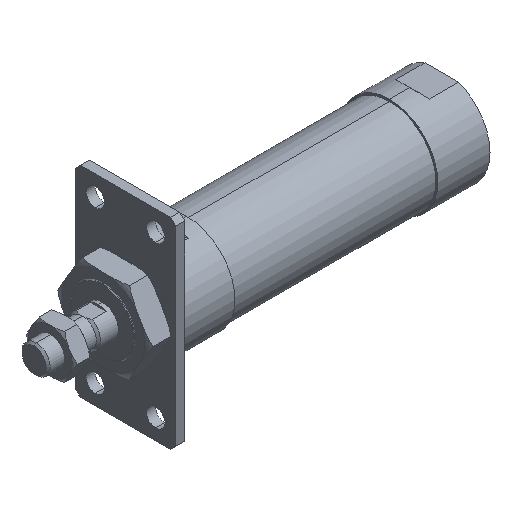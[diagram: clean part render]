
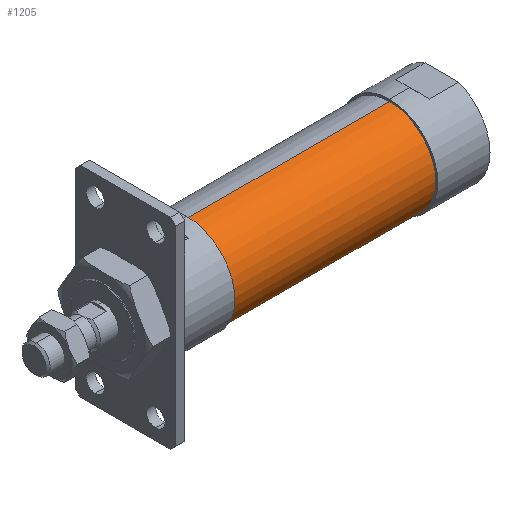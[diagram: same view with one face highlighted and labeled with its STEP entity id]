
A CAD part, isometric view. The second image highlights one B-rep face of the part: STEP entity #1205.
In plain terms, the highlighted cylindrical face has radius 23 mm (diameter 46 mm), a partial arc.
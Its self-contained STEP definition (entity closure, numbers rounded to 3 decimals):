
#27 = AXIS2_PLACEMENT_3D ( 'NONE', #2019, #56, #3280 ) ;
#56 = DIRECTION ( 'NONE',  ( -1., 0., 0. ) ) ;
#185 = EDGE_CURVE ( 'NONE', #3167, #1322, #2582, .T. ) ;
#284 = CARTESIAN_POINT ( 'NONE',  ( -1.784, 0., 0. ) ) ;
#344 = DIRECTION ( 'NONE',  ( -1., 0., 0. ) ) ;
#373 = CARTESIAN_POINT ( 'NONE',  ( 76., 0., 0. ) ) ;
#434 = CYLINDRICAL_SURFACE ( 'NONE', #2907, 23. ) ;
#694 = ORIENTED_EDGE ( 'NONE', *, *, #923, .F. ) ;
#712 = DIRECTION ( 'NONE',  ( 0., 0., 1. ) ) ;
#808 = DIRECTION ( 'NONE',  ( 0., 0., 1. ) ) ;
#923 = EDGE_CURVE ( 'NONE', #2195, #3769, #1025, .T. ) ;
#1019 = FACE_OUTER_BOUND ( 'NONE', #2580, .T. ) ;
#1025 = LINE ( 'NONE', #3606, #3209 ) ;
#1205 = ADVANCED_FACE ( 'NONE', ( #1019 ), #434, .T. ) ;
#1207 = CARTESIAN_POINT ( 'NONE',  ( 76., 0., 23. ) ) ;
#1322 = VERTEX_POINT ( 'NONE', #1207 ) ;
#1476 = ORIENTED_EDGE ( 'NONE', *, *, #3802, .F. ) ;
#1657 = ORIENTED_EDGE ( 'NONE', *, *, #2587, .T. ) ;
#1744 = CIRCLE ( 'NONE', #1994, 23. ) ;
#1749 = DIRECTION ( 'NONE',  ( -1., 0., 0. ) ) ;
#1994 = AXIS2_PLACEMENT_3D ( 'NONE', #373, #2589, #712 ) ;
#2019 = CARTESIAN_POINT ( 'NONE',  ( 177., 0., 0. ) ) ;
#2195 = VERTEX_POINT ( 'NONE', #2603 ) ;
#2261 = CARTESIAN_POINT ( 'NONE',  ( -1.784, 0., 23. ) ) ;
#2578 = VECTOR ( 'NONE', #344, 1000. ) ;
#2580 = EDGE_LOOP ( 'NONE', ( #694, #1657, #3856, #1476 ) ) ;
#2582 = LINE ( 'NONE', #2261, #2578 ) ;
#2587 = EDGE_CURVE ( 'NONE', #2195, #3167, #3059, .T. ) ;
#2589 = DIRECTION ( 'NONE',  ( -1., 0., 0. ) ) ;
#2603 = CARTESIAN_POINT ( 'NONE',  ( 177., 0., -23. ) ) ;
#2907 = AXIS2_PLACEMENT_3D ( 'NONE', #284, #2987, #808 ) ;
#2987 = DIRECTION ( 'NONE',  ( -1., 0., 0. ) ) ;
#3059 = CIRCLE ( 'NONE', #27, 23. ) ;
#3167 = VERTEX_POINT ( 'NONE', #3466 ) ;
#3209 = VECTOR ( 'NONE', #1749, 1000. ) ;
#3280 = DIRECTION ( 'NONE',  ( 0., 0., 1. ) ) ;
#3466 = CARTESIAN_POINT ( 'NONE',  ( 177., 0., 23. ) ) ;
#3606 = CARTESIAN_POINT ( 'NONE',  ( -1.784, 0., -23. ) ) ;
#3769 = VERTEX_POINT ( 'NONE', #3881 ) ;
#3802 = EDGE_CURVE ( 'NONE', #3769, #1322, #1744, .T. ) ;
#3856 = ORIENTED_EDGE ( 'NONE', *, *, #185, .T. ) ;
#3881 = CARTESIAN_POINT ( 'NONE',  ( 76., 0., -23. ) ) ;
